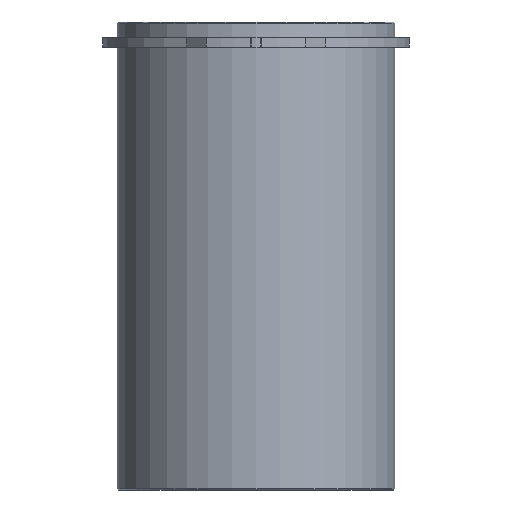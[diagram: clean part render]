
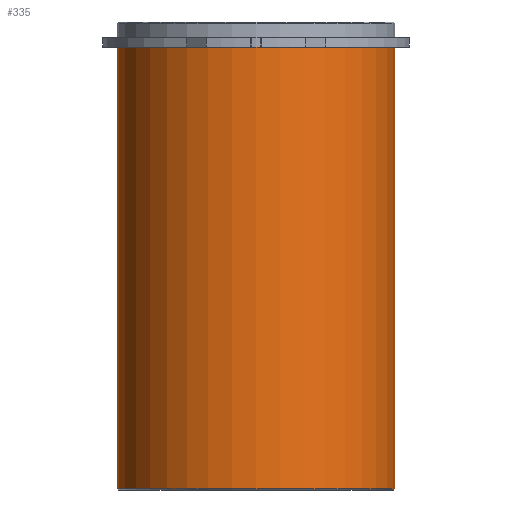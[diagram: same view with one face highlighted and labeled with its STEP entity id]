
A CAD part, front view. The second image highlights one B-rep face of the part: STEP entity #335.
In plain terms, the highlighted cylindrical face has radius 37.125 mm (diameter 74.25 mm), a partial arc.
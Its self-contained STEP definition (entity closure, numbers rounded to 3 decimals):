
#294=CARTESIAN_POINT('',(0.0,0.,-59.0));
#295=DIRECTION('',(0.0,0.,1.0));
#296=DIRECTION('',(1.0,0.0,0.0));
#297=AXIS2_PLACEMENT_3D('',#294,#295,#296);
#298=CYLINDRICAL_SURFACE('',#297,37.125);
#299=CARTESIAN_POINT('',(37.125,0.0,0.0));
#300=VERTEX_POINT('',#299);
#301=CARTESIAN_POINT('',(37.125,0.,-118.0));
#302=VERTEX_POINT('',#301);
#303=CARTESIAN_POINT('',(37.125,0.0,0.0));
#304=DIRECTION('',(0.0,0.0,-1.0));
#305=VECTOR('',#304,118.0);
#306=LINE('',#303,#305);
#307=EDGE_CURVE('',#300,#302,#306,.T.);
#308=ORIENTED_EDGE('',*,*,#307,.F.);
#309=CARTESIAN_POINT('',(-37.125,0.,0.0));
#310=VERTEX_POINT('',#309);
#311=CARTESIAN_POINT('',(0.0,0.0,0.0));
#312=DIRECTION('',(0.0,0.0,1.0));
#313=DIRECTION('',(1.0,0.0,0.0));
#314=AXIS2_PLACEMENT_3D('',#311,#312,#313);
#315=CIRCLE('',#314,37.125);
#316=EDGE_CURVE('',#310,#300,#315,.T.);
#317=ORIENTED_EDGE('',*,*,#316,.F.);
#318=CARTESIAN_POINT('',(-37.125,0.,-118.0));
#319=VERTEX_POINT('',#318);
#320=CARTESIAN_POINT('',(-37.125,0.,0.0));
#321=DIRECTION('',(0.0,0.0,-1.0));
#322=VECTOR('',#321,118.0);
#323=LINE('',#320,#322);
#324=EDGE_CURVE('',#310,#319,#323,.T.);
#325=ORIENTED_EDGE('',*,*,#324,.T.);
#326=CARTESIAN_POINT('',(0.0,0.,-118.0));
#327=DIRECTION('',(0.0,0.0,1.0));
#328=DIRECTION('',(1.0,0.0,0.0));
#329=AXIS2_PLACEMENT_3D('',#326,#327,#328);
#330=CIRCLE('',#329,37.125);
#331=EDGE_CURVE('',#319,#302,#330,.T.);
#332=ORIENTED_EDGE('',*,*,#331,.T.);
#333=EDGE_LOOP('',(#308,#317,#325,#332));
#334=FACE_OUTER_BOUND('',#333,.T.);
#335=ADVANCED_FACE('',(#334),#298,.T.);
